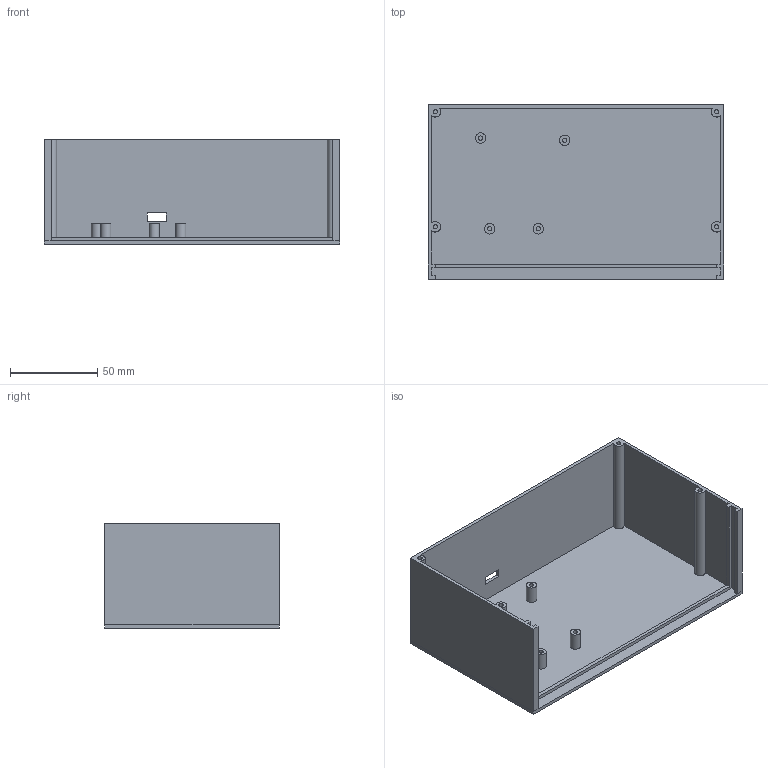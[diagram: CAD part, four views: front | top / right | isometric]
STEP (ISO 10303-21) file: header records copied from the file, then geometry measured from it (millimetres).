
FILE_DESCRIPTION(('FreeCAD Model'),'2;1');
FILE_NAME('E:/CAD Designs/Garmin/Final/CAD files/STEP/box.step', '2021-02-27T12:55:38',('Author'),(''), 'Open CASCADE STEP processor 7.3','FreeCAD','Unknown');
FILE_SCHEMA(('AUTOMOTIVE_DESIGN { 1 0 10303 214 1 1 1 1 }'));
Length unit declared in the file: millimetre
Products named in the file (1): Body
Bounding box: 169.5 x 100 x 60 mm (x, y, z)
Volume: 83042.9 mm3; surface area: 83172.4 mm2
Topology: 1 solids, 1 shells, 65 faces, 143 edges, 92 vertices
Faces by surface type: plane 49, cylinder 16
Full cylindrical faces by diameter (mm): 2.5 x8, 6 x4
Entity records: 3653 total; most frequent: DIRECTION 593, CARTESIAN_POINT 587, LINE 365, VECTOR 365, ORIENTED_EDGE 286, PCURVE 286, DEFINITIONAL_REPRESENTATION 286, EDGE_CURVE 143
